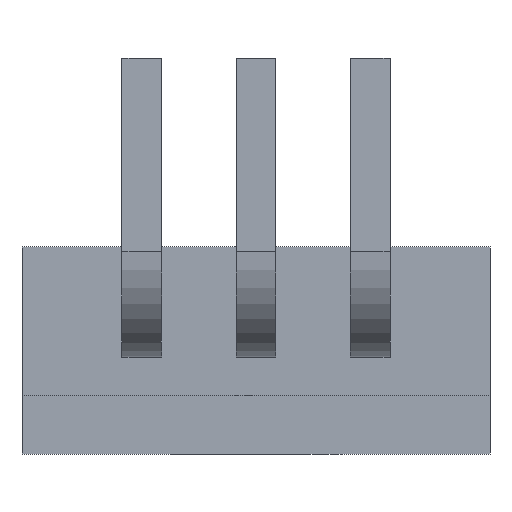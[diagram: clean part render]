
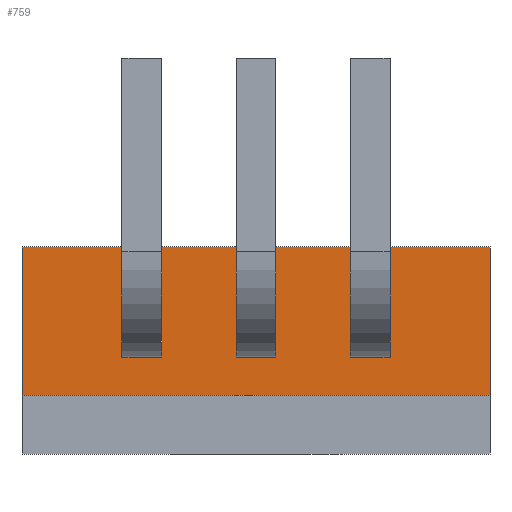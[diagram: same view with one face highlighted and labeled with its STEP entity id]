
A CAD part, front view. The second image highlights one B-rep face of the part: STEP entity #759.
In plain terms, the highlighted planar face has unit normal (0, -1, 0).
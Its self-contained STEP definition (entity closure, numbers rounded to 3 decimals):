
#507 = PLANE('',#508);
#508 = AXIS2_PLACEMENT_3D('',#509,#510,#511);
#509 = CARTESIAN_POINT('',(-2.66,16.1,-6.5));
#510 = DIRECTION('',(1.,0.,-0.));
#511 = DIRECTION('',(0.,0.,-1.));
#532 = VERTEX_POINT('',#533);
#533 = CARTESIAN_POINT('',(-2.66,6.5,-6.5));
#547 = PLANE('',#548);
#548 = AXIS2_PLACEMENT_3D('',#549,#550,#551);
#549 = CARTESIAN_POINT('',(-2.66,16.1,-6.5));
#550 = DIRECTION('',(0.,0.,1.));
#551 = DIRECTION('',(-1.,0.,0.));
#559 = EDGE_CURVE('',#532,#560,#562,.T.);
#560 = VERTEX_POINT('',#561);
#561 = CARTESIAN_POINT('',(-2.66,6.5,-3.2));
#562 = SURFACE_CURVE('',#563,(#567,#574),.PCURVE_S1.);
#563 = LINE('',#564,#565);
#564 = CARTESIAN_POINT('',(-2.66,6.5,-6.5));
#565 = VECTOR('',#566,1.);
#566 = DIRECTION('',(0.,0.,1.));
#567 = PCURVE('',#507,#568);
#568 = DEFINITIONAL_REPRESENTATION('',(#569),#573);
#569 = LINE('',#570,#571);
#570 = CARTESIAN_POINT('',(-0.,-9.6));
#571 = VECTOR('',#572,1.);
#572 = DIRECTION('',(-1.,0.));
#573 = ( GEOMETRIC_REPRESENTATION_CONTEXT(2) 
PARAMETRIC_REPRESENTATION_CONTEXT() REPRESENTATION_CONTEXT('2D SPACE',''
  ) );
#574 = PCURVE('',#575,#580);
#575 = PLANE('',#576);
#576 = AXIS2_PLACEMENT_3D('',#577,#578,#579);
#577 = CARTESIAN_POINT('',(-2.66,6.5,-6.5));
#578 = DIRECTION('',(0.,-1.,0.));
#579 = DIRECTION('',(0.,0.,-1.));
#580 = DEFINITIONAL_REPRESENTATION('',(#581),#585);
#581 = LINE('',#582,#583);
#582 = CARTESIAN_POINT('',(-0.,0.));
#583 = VECTOR('',#584,1.);
#584 = DIRECTION('',(-1.,0.));
#585 = ( GEOMETRIC_REPRESENTATION_CONTEXT(2) 
PARAMETRIC_REPRESENTATION_CONTEXT() REPRESENTATION_CONTEXT('2D SPACE',''
  ) );
#601 = PLANE('',#602);
#602 = AXIS2_PLACEMENT_3D('',#603,#604,#605);
#603 = CARTESIAN_POINT('',(-2.66,16.1,-3.2));
#604 = DIRECTION('',(0.,0.,1.));
#605 = DIRECTION('',(-1.,0.,0.));
#627 = PLANE('',#628);
#628 = AXIS2_PLACEMENT_3D('',#629,#630,#631);
#629 = CARTESIAN_POINT('',(7.74,16.1,-6.5));
#630 = DIRECTION('',(1.,0.,-0.));
#631 = DIRECTION('',(0.,0.,-1.));
#647 = VERTEX_POINT('',#648);
#648 = CARTESIAN_POINT('',(7.74,6.5,-6.5));
#669 = EDGE_CURVE('',#647,#670,#672,.T.);
#670 = VERTEX_POINT('',#671);
#671 = CARTESIAN_POINT('',(7.74,6.5,-3.2));
#672 = SURFACE_CURVE('',#673,(#677,#684),.PCURVE_S1.);
#673 = LINE('',#674,#675);
#674 = CARTESIAN_POINT('',(7.74,6.5,-6.5));
#675 = VECTOR('',#676,1.);
#676 = DIRECTION('',(0.,0.,1.));
#677 = PCURVE('',#627,#678);
#678 = DEFINITIONAL_REPRESENTATION('',(#679),#683);
#679 = LINE('',#680,#681);
#680 = CARTESIAN_POINT('',(-0.,-9.6));
#681 = VECTOR('',#682,1.);
#682 = DIRECTION('',(-1.,0.));
#683 = ( GEOMETRIC_REPRESENTATION_CONTEXT(2) 
PARAMETRIC_REPRESENTATION_CONTEXT() REPRESENTATION_CONTEXT('2D SPACE',''
  ) );
#684 = PCURVE('',#575,#685);
#685 = DEFINITIONAL_REPRESENTATION('',(#686),#690);
#686 = LINE('',#687,#688);
#687 = CARTESIAN_POINT('',(-0.,10.4));
#688 = VECTOR('',#689,1.);
#689 = DIRECTION('',(-1.,0.));
#690 = ( GEOMETRIC_REPRESENTATION_CONTEXT(2) 
PARAMETRIC_REPRESENTATION_CONTEXT() REPRESENTATION_CONTEXT('2D SPACE',''
  ) );
#759 = ADVANCED_FACE('',(#760),#575,.T.);
#760 = FACE_BOUND('',#761,.F.);
#761 = EDGE_LOOP('',(#762,#783,#784,#805));
#762 = ORIENTED_EDGE('',*,*,#763,.F.);
#763 = EDGE_CURVE('',#532,#647,#764,.T.);
#764 = SURFACE_CURVE('',#765,(#769,#776),.PCURVE_S1.);
#765 = LINE('',#766,#767);
#766 = CARTESIAN_POINT('',(-2.66,6.5,-6.5));
#767 = VECTOR('',#768,1.);
#768 = DIRECTION('',(1.,0.,-0.));
#769 = PCURVE('',#575,#770);
#770 = DEFINITIONAL_REPRESENTATION('',(#771),#775);
#771 = LINE('',#772,#773);
#772 = CARTESIAN_POINT('',(-0.,0.));
#773 = VECTOR('',#774,1.);
#774 = DIRECTION('',(-0.,1.));
#775 = ( GEOMETRIC_REPRESENTATION_CONTEXT(2) 
PARAMETRIC_REPRESENTATION_CONTEXT() REPRESENTATION_CONTEXT('2D SPACE',''
  ) );
#776 = PCURVE('',#547,#777);
#777 = DEFINITIONAL_REPRESENTATION('',(#778),#782);
#778 = LINE('',#779,#780);
#779 = CARTESIAN_POINT('',(-0.,9.6));
#780 = VECTOR('',#781,1.);
#781 = DIRECTION('',(-1.,0.));
#782 = ( GEOMETRIC_REPRESENTATION_CONTEXT(2) 
PARAMETRIC_REPRESENTATION_CONTEXT() REPRESENTATION_CONTEXT('2D SPACE',''
  ) );
#783 = ORIENTED_EDGE('',*,*,#559,.T.);
#784 = ORIENTED_EDGE('',*,*,#785,.T.);
#785 = EDGE_CURVE('',#560,#670,#786,.T.);
#786 = SURFACE_CURVE('',#787,(#791,#798),.PCURVE_S1.);
#787 = LINE('',#788,#789);
#788 = CARTESIAN_POINT('',(-2.66,6.5,-3.2));
#789 = VECTOR('',#790,1.);
#790 = DIRECTION('',(1.,0.,-0.));
#791 = PCURVE('',#575,#792);
#792 = DEFINITIONAL_REPRESENTATION('',(#793),#797);
#793 = LINE('',#794,#795);
#794 = CARTESIAN_POINT('',(-3.3,0.));
#795 = VECTOR('',#796,1.);
#796 = DIRECTION('',(-0.,1.));
#797 = ( GEOMETRIC_REPRESENTATION_CONTEXT(2) 
PARAMETRIC_REPRESENTATION_CONTEXT() REPRESENTATION_CONTEXT('2D SPACE',''
  ) );
#798 = PCURVE('',#601,#799);
#799 = DEFINITIONAL_REPRESENTATION('',(#800),#804);
#800 = LINE('',#801,#802);
#801 = CARTESIAN_POINT('',(-0.,9.6));
#802 = VECTOR('',#803,1.);
#803 = DIRECTION('',(-1.,0.));
#804 = ( GEOMETRIC_REPRESENTATION_CONTEXT(2) 
PARAMETRIC_REPRESENTATION_CONTEXT() REPRESENTATION_CONTEXT('2D SPACE',''
  ) );
#805 = ORIENTED_EDGE('',*,*,#669,.F.);
